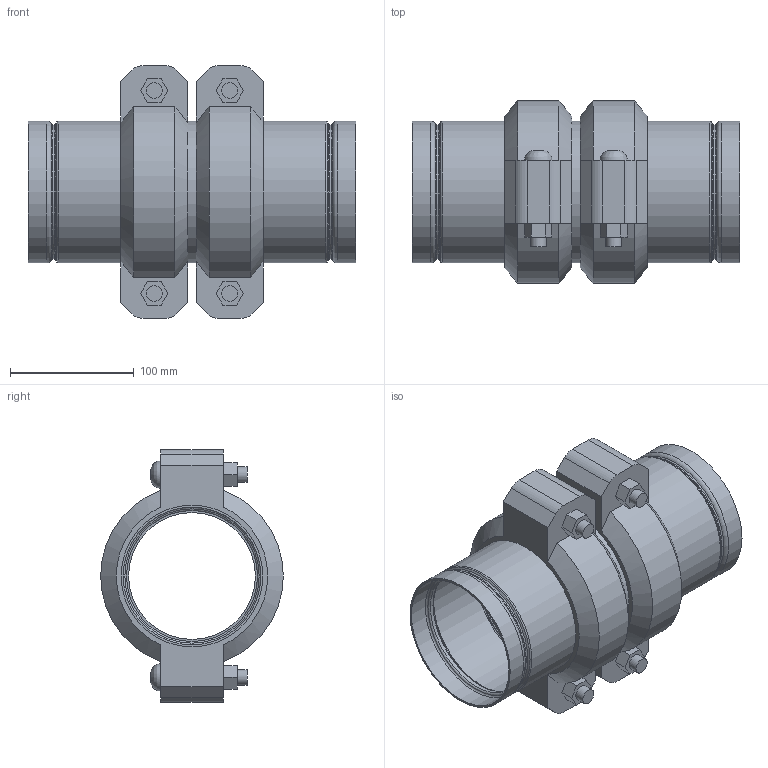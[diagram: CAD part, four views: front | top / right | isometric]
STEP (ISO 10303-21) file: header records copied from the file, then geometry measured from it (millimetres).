
FILE_DESCRIPTION(/* description */ ('VIC STRENGTHIN 100 EXPANSION JOINT 2 COUPLINGS COMPRESSED STYLE E155 (ST1)','CAx-IF Rec.Pracs.---Representation and Presentation of Product Manufacturing Information (PMI)---4.0---2014-10-13'),/* implementation_level */ '2;1');
FILE_NAME(/* name */ 'C:\Users\Vjadhav\AppData\Roaming\Autodesk\ApplicationPlugins\Victaulic.Temp\A523\Victaulic_SS-StrengThin 100_Expansion Joint_Compressed_2 Couplings_Style E155 (ST1)_4 (100).stp',/* time_stamp */ '2021-07-23T12:29:10+06:00',/* author */ ('kkamble'),/* organization */ ('Victaulic'),/* preprocessor_version */ 'ST-DEVELOPER v17.2',/* originating_system */ 'Autodesk Inventor 2019',/* authorisation */ '');
FILE_SCHEMA (('AP242_MANAGED_MODEL_BASED_3D_ENGINEERING_MIM_LF { 1 0 10303 442 1 1 4 }'));
Length unit declared in the file: inch
Products named in the file (4): E155-04.0; E494G-04.0; Nipple-04.0; 075-04.0
Assembly tree (5 placements, depth 2):
  E155-04.0
    E494G-04.0  x2
    Nipple-04.0
    075-04.0  x2
Bounding box: 264.41 x 147.32 x 203.96 mm (x, y, z)
Volume: 1192049.1 mm3; surface area: 352169.3 mm2
Topology: 5 solids, 9 shells, 186 faces, 506 edges, 362 vertices
Faces by surface type: plane 86, cylinder 52, torus 32, cone 12, bspline 4
Full cylindrical faces by diameter (mm): 12.7 x8, 14.605 x4, 102.26 x1, 105.639 x2, 106.883 x2, 108.839 x2, 110.084 x4, 111.1 x6, 114.3 x11
Entity records: 3599 total; most frequent: CARTESIAN_POINT 637, DIRECTION 635, ORIENTED_EDGE 536, AXIS2_PLACEMENT_3D 269, EDGE_CURVE 268, VERTEX_POINT 193, CIRCLE 163, EDGE_LOOP 123
